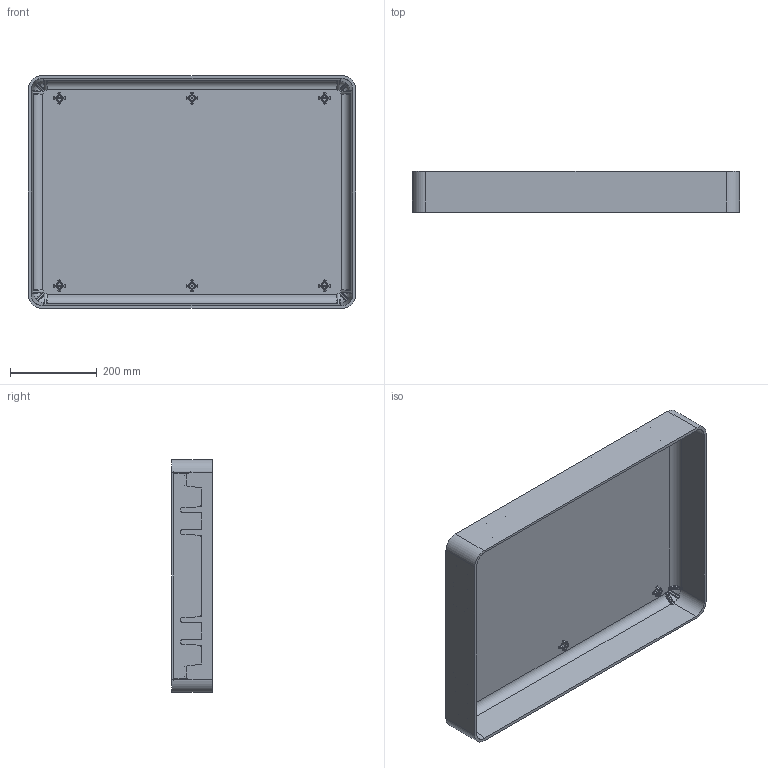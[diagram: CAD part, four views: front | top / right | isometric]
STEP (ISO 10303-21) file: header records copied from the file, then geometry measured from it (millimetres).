
FILE_DESCRIPTION (( 'STEP AP214' ), '1' );
FILE_NAME ('1660 Peli Case Top.STEP', '2016-02-16T02:33:19', ( '' ), ( '' ), 'SwSTEP 2.0', 'SolidWorks 2014', '' );
FILE_SCHEMA (( 'AUTOMOTIVE_DESIGN' ));
Length unit declared in the file: inch
Products named in the file (1): 1660 Peli Case Top
Bounding box: 752.12 x 93.98 x 535.41 mm (x, y, z)
Volume: 4767676.7 mm3; surface area: 1547836.5 mm2
Topology: 2 solids, 2 shells, 1400 faces, 3382 edges, 1934 vertices
Faces by surface type: bspline 660, cylinder 292, plane 212, torus 162, cone 66, sphere 8
Entity records: 58387 total; most frequent: CARTESIAN_POINT 31408, ORIENTED_EDGE 6636, DIRECTION 4460, EDGE_CURVE 3318, VERTEX_POINT 1934, AXIS2_PLACEMENT_3D 1863, EDGE_LOOP 1414, FACE_OUTER_BOUND 1400
